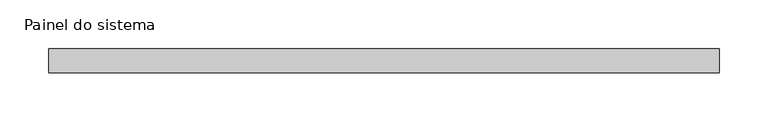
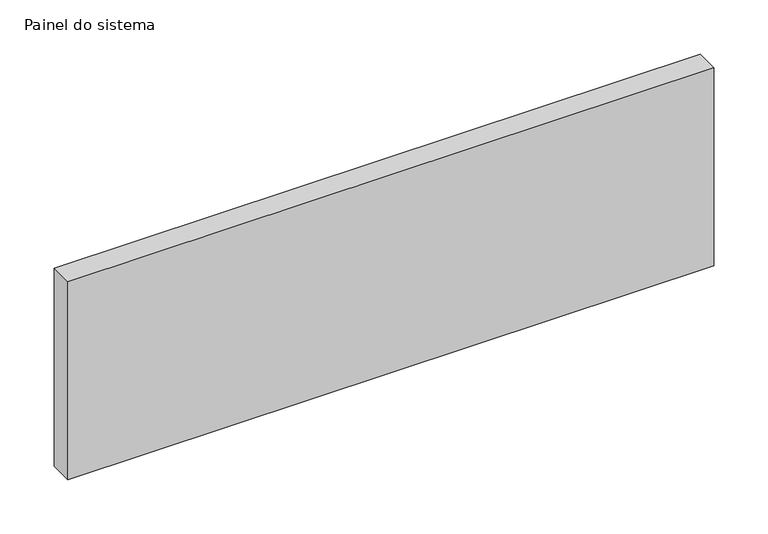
"""IFC4 building model written with IfcOpenShell, lengths in millimetres: plate geometry, Painel do sistema : Envidraçado."""

from ifc_helpers import new_model, si_unit, origin, origin_with_axes, place, context, project, spatial, polyline, outline, extrude, source, transform, mapped, element, save


def painel_do_sistema_f245dbe6(model_context):
    return source(origin(), model_context, "Body", "SweptSolid", [
        extrude(outline(polyline([(344.6997711, 24.5), (-344.6997711, 24.5), (-344.6997711, 49.5), (344.6997711, 49.5), (344.6997711, 24.5)])), origin_with_axes(), (0.0, 0.0, 1.0), 223.6217085),
    ])


if __name__ == "__main__":
    model = new_model("IFC4")
    model_context = context("Model", 3, world=origin())
    ifc_project = project(units=[si_unit("LENGTHUNIT", "METRE", prefix="MILLI")], contexts=[model_context])
    site = spatial("IfcSite", under=ifc_project)
    building = spatial("IfcBuilding", under=site)
    placement = place(None, origin())
    painel_do_sistema_shape = painel_do_sistema_f245dbe6(model_context)
    element("IfcPlate", 1, ObjectType="Painel do sistema : Envidraçado", at=placement, inside=building, context=model_context, shape_type="MappedRepresentation", body=[
        mapped(painel_do_sistema_shape, transform((0.0, 0.0, 0.0), x_axis=(1.0, 0.0, 0.0), y_axis=(0.0, 1.0, 0.0), z_axis=(0.0, 0.0, 1.0))),
    ])
    save(model, "model.ifc")
